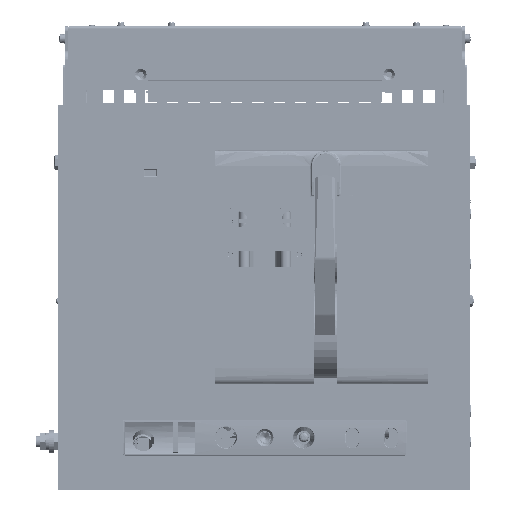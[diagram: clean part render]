
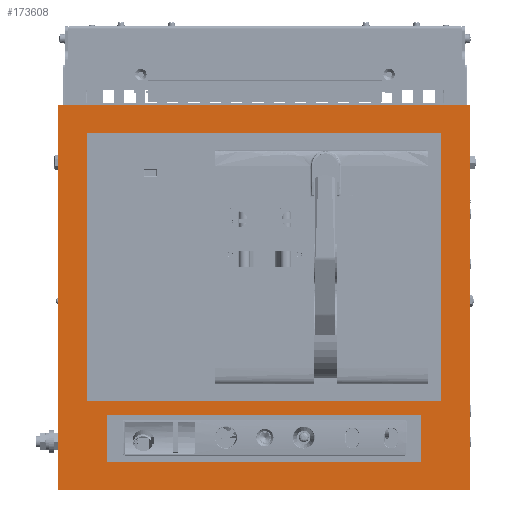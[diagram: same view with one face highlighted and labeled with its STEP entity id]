
A CAD part, top view. The second image highlights one B-rep face of the part: STEP entity #173608.
In plain terms, the highlighted planar face has unit normal (0, 0, 1) as drawn and (0, 1, 0) by its records, which use the part's own axes.
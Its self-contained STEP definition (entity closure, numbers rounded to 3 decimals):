
#6353 = DIRECTION ( 'NONE',  ( 0., 0., -1. ) ) ;
#6395 = VERTEX_POINT ( 'NONE', #198841 ) ;
#9677 = CARTESIAN_POINT ( 'NONE',  ( 161.5, 11., 169. ) ) ;
#24402 = FACE_OUTER_BOUND ( 'NONE', #377565, .T. ) ;
#30142 = VERTEX_POINT ( 'NONE', #312958 ) ;
#32979 = CARTESIAN_POINT ( 'NONE',  ( -161.5, 11., 169. ) ) ;
#35659 = VECTOR ( 'NONE', #592445, 1000. ) ;
#48674 = LINE ( 'NONE', #188103, #71264 ) ;
#55139 = ORIENTED_EDGE ( 'NONE', *, *, #501895, .T. ) ;
#59160 = CARTESIAN_POINT ( 'NONE',  ( -161.5, 11., 121. ) ) ;
#65424 = EDGE_LOOP ( 'NONE', ( #74797, #150899, #440837, #195004 ) ) ;
#71264 = VECTOR ( 'NONE', #246257, 1000. ) ;
#72287 = ORIENTED_EDGE ( 'NONE', *, *, #140074, .T. ) ;
#74797 = ORIENTED_EDGE ( 'NONE', *, *, #543620, .T. ) ;
#77880 = EDGE_CURVE ( 'NONE', #30142, #431914, #305326, .T. ) ;
#101527 = DIRECTION ( 'NONE',  ( 0., 0., -1. ) ) ;
#102460 = VERTEX_POINT ( 'NONE', #267558 ) ;
#104722 = VECTOR ( 'NONE', #584531, 1000. ) ;
#108206 = VECTOR ( 'NONE', #375240, 1000. ) ;
#111656 = CARTESIAN_POINT ( 'NONE',  ( 161.5, 11., 121. ) ) ;
#134441 = CARTESIAN_POINT ( 'NONE',  ( 212., 11., 198. ) ) ;
#140074 = EDGE_CURVE ( 'NONE', #429145, #466965, #335169, .T. ) ;
#140364 = VECTOR ( 'NONE', #6353, 1000. ) ;
#144548 = VERTEX_POINT ( 'NONE', #32979 ) ;
#150899 = ORIENTED_EDGE ( 'NONE', *, *, #516532, .T. ) ;
#151592 = EDGE_CURVE ( 'NONE', #565471, #429145, #276472, .T. ) ;
#153357 = CARTESIAN_POINT ( 'NONE',  ( -161.5, 11., 169. ) ) ;
#156019 = LINE ( 'NONE', #168781, #367729 ) ;
#162486 = CARTESIAN_POINT ( 'NONE',  ( 182., 11., -169. ) ) ;
#166972 = PLANE ( 'NONE',  #429511 ) ;
#167735 = EDGE_CURVE ( 'NONE', #362239, #592098, #217462, .T. ) ;
#168781 = CARTESIAN_POINT ( 'NONE',  ( 161.5, 11., 169. ) ) ;
#173373 = DIRECTION ( 'NONE',  ( 1., 0., 0. ) ) ;
#173608 = ADVANCED_FACE ( 'NONE', ( #574860, #513542, #24402 ), #166972, .T. ) ;
#188103 = CARTESIAN_POINT ( 'NONE',  ( 182., 11., 106. ) ) ;
#188670 = CARTESIAN_POINT ( 'NONE',  ( -212., 11., -198. ) ) ;
#195004 = ORIENTED_EDGE ( 'NONE', *, *, #167735, .T. ) ;
#198508 = DIRECTION ( 'NONE',  ( 1., 0., 0. ) ) ;
#198841 = CARTESIAN_POINT ( 'NONE',  ( -182., 11., 106. ) ) ;
#202189 = VERTEX_POINT ( 'NONE', #9677 ) ;
#217462 = LINE ( 'NONE', #162486, #602088 ) ;
#230975 = CARTESIAN_POINT ( 'NONE',  ( -182., 11., -169. ) ) ;
#239796 = CARTESIAN_POINT ( 'NONE',  ( 182., 11., 106. ) ) ;
#246257 = DIRECTION ( 'NONE',  ( -1., 0., 0. ) ) ;
#267558 = CARTESIAN_POINT ( 'NONE',  ( -212., 11., -198. ) ) ;
#276472 = LINE ( 'NONE', #428653, #371910 ) ;
#291258 = LINE ( 'NONE', #433937, #35659 ) ;
#305326 = LINE ( 'NONE', #59160, #414864 ) ;
#306217 = DIRECTION ( 'NONE',  ( -1., 0., 0. ) ) ;
#308171 = DIRECTION ( 'NONE',  ( -1., 0., 0. ) ) ;
#312958 = CARTESIAN_POINT ( 'NONE',  ( -161.5, 11., 121. ) ) ;
#313293 = ORIENTED_EDGE ( 'NONE', *, *, #151592, .T. ) ;
#315949 = DIRECTION ( 'NONE',  ( 0., 1., 0. ) ) ;
#335169 = LINE ( 'NONE', #134441, #104722 ) ;
#337631 = DIRECTION ( 'NONE',  ( 0., 0., 1. ) ) ;
#352035 = EDGE_LOOP ( 'NONE', ( #55139, #449462, #370921, #592802 ) ) ;
#362239 = VERTEX_POINT ( 'NONE', #535042 ) ;
#366421 = DIRECTION ( 'NONE',  ( 0., 0., 1. ) ) ;
#367729 = VECTOR ( 'NONE', #308171, 1000. ) ;
#368411 = ORIENTED_EDGE ( 'NONE', *, *, #540276, .T. ) ;
#370921 = ORIENTED_EDGE ( 'NONE', *, *, #77880, .T. ) ;
#371910 = VECTOR ( 'NONE', #470904, 1000. ) ;
#372060 = CARTESIAN_POINT ( 'NONE',  ( 161.5, 11., 121. ) ) ;
#375240 = DIRECTION ( 'NONE',  ( 0., 0., 1. ) ) ;
#377565 = EDGE_LOOP ( 'NONE', ( #313293, #72287, #368411, #618993 ) ) ;
#391468 = VECTOR ( 'NONE', #101527, 1000. ) ;
#403431 = LINE ( 'NONE', #600999, #430608 ) ;
#411140 = EDGE_CURVE ( 'NONE', #144548, #30142, #545289, .T. ) ;
#412720 = VERTEX_POINT ( 'NONE', #230975 ) ;
#414864 = VECTOR ( 'NONE', #198508, 1000. ) ;
#416328 = CARTESIAN_POINT ( 'NONE',  ( 0., 11., 0. ) ) ;
#427061 = LINE ( 'NONE', #372060, #108206 ) ;
#428653 = CARTESIAN_POINT ( 'NONE',  ( -212., 11., 198. ) ) ;
#429145 = VERTEX_POINT ( 'NONE', #555190 ) ;
#429511 = AXIS2_PLACEMENT_3D ( 'NONE', #416328, #315949, #173373 ) ;
#430608 = VECTOR ( 'NONE', #306217, 1000. ) ;
#431914 = VERTEX_POINT ( 'NONE', #111656 ) ;
#433758 = VECTOR ( 'NONE', #337631, 1000. ) ;
#433765 = EDGE_CURVE ( 'NONE', #102460, #565471, #632444, .T. ) ;
#433937 = CARTESIAN_POINT ( 'NONE',  ( -182., 11., -169. ) ) ;
#440837 = ORIENTED_EDGE ( 'NONE', *, *, #570451, .T. ) ;
#442532 = CARTESIAN_POINT ( 'NONE',  ( -212., 11., 198. ) ) ;
#445429 = CARTESIAN_POINT ( 'NONE',  ( 212., 11., -198. ) ) ;
#449462 = ORIENTED_EDGE ( 'NONE', *, *, #411140, .T. ) ;
#459677 = LINE ( 'NONE', #508254, #140364 ) ;
#466965 = VERTEX_POINT ( 'NONE', #445429 ) ;
#470904 = DIRECTION ( 'NONE',  ( 1., 0., 0. ) ) ;
#501895 = EDGE_CURVE ( 'NONE', #202189, #144548, #156019, .T. ) ;
#508254 = CARTESIAN_POINT ( 'NONE',  ( -182., 11., 106. ) ) ;
#513542 = FACE_BOUND ( 'NONE', #65424, .T. ) ;
#516532 = EDGE_CURVE ( 'NONE', #6395, #412720, #459677, .T. ) ;
#535042 = CARTESIAN_POINT ( 'NONE',  ( 182., 11., -169. ) ) ;
#540276 = EDGE_CURVE ( 'NONE', #466965, #102460, #403431, .T. ) ;
#543620 = EDGE_CURVE ( 'NONE', #592098, #6395, #48674, .T. ) ;
#545289 = LINE ( 'NONE', #153357, #391468 ) ;
#555190 = CARTESIAN_POINT ( 'NONE',  ( 212., 11., 198. ) ) ;
#565471 = VERTEX_POINT ( 'NONE', #442532 ) ;
#570451 = EDGE_CURVE ( 'NONE', #412720, #362239, #291258, .T. ) ;
#574860 = FACE_BOUND ( 'NONE', #352035, .T. ) ;
#584531 = DIRECTION ( 'NONE',  ( 0., 0., -1. ) ) ;
#592098 = VERTEX_POINT ( 'NONE', #239796 ) ;
#592445 = DIRECTION ( 'NONE',  ( 1., 0., 0. ) ) ;
#592802 = ORIENTED_EDGE ( 'NONE', *, *, #611553, .T. ) ;
#600999 = CARTESIAN_POINT ( 'NONE',  ( 212., 11., -198. ) ) ;
#602088 = VECTOR ( 'NONE', #366421, 1000. ) ;
#611553 = EDGE_CURVE ( 'NONE', #431914, #202189, #427061, .T. ) ;
#618993 = ORIENTED_EDGE ( 'NONE', *, *, #433765, .T. ) ;
#632444 = LINE ( 'NONE', #188670, #433758 ) ;
